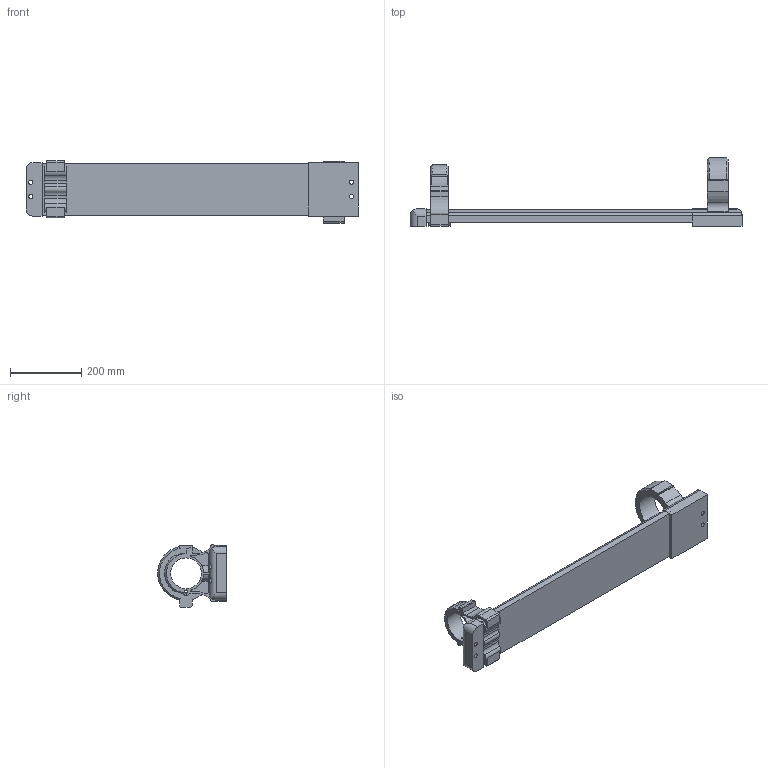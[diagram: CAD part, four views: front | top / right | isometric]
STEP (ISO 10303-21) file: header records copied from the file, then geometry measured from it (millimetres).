
FILE_DESCRIPTION( ( 'STEP AP214' ), '1' );
FILE_NAME( 'e:/temp/worker_38/temp/exporttempdir_5200_192_Q9wIV/format_0/ROBOWAY.stp', '2021-05-04T08:02:39', ( 'License CC BY-ND 4.0' ), ( 'CADENAS' ), ' ', 'PARTsolutions', ' ' );
FILE_SCHEMA( ( 'AUTOMOTIVE_DESIGN { 1 0 10303 214 1 1 1 1 }' ) );
Length unit declared in the file: millimetre
Products named in the file (5): 127321247 RW-95 650L; _RWM-95; _RWR-95; _ST-RAIL 95-650; _RWF-95
Assembly tree (6 placements, depth 2):
  127321247 RW-95 650L
    _RWM-95
    _RWR-95
    _ST-RAIL 95-650  x2
    _RWF-95  x2
Bounding box: 930 x 192.3 x 174.98 mm (x, y, z)
Volume: 10902245.5 mm3; surface area: 933045.3 mm2
Topology: 6 solids, 6 shells, 260 faces, 729 edges, 487 vertices
Faces by surface type: cylinder 129, plane 125, cone 6
Full cylindrical faces by diameter (mm): 9 x1, 12 x6, 17 x1, 18 x6, 24 x2, 35 x1, 86.4 x1, 109 x2
Entity records: 8752 total; most frequent: CARTESIAN_POINT 1722, DIRECTION 1136, ORIENTED_EDGE 1092, EDGE_CURVE 546, AXIS2_PLACEMENT_3D 410, VERTEX_POINT 374, LINE 316, VECTOR 316
